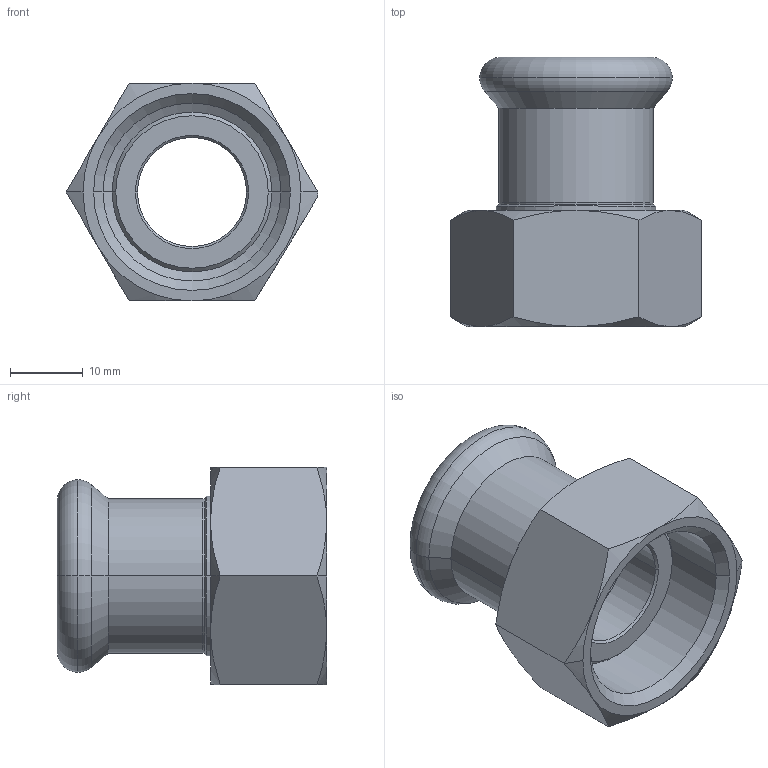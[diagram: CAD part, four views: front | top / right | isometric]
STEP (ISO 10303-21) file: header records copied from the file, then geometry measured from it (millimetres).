
FILE_DESCRIPTION(('CoCreate Modeling STEP Export'),'2;1');
FILE_NAME('C1446 18xG3-4.stp','2014-11-12T16:53:47',(''),(''),'CoCreate Modeling STEP processor for AP214 (Solid Model)','CoCreate Modeling 17.00A 17-Jun-2010 (C) Parametric Technology GmbH','');
FILE_SCHEMA(('AUTOMOTIVE_DESIGN { 1 0 10303 214 1 1 1 1 }'));
Length unit declared in the file: millimetre
Products named in the file (2): C1446_18xG3-4
Assembly tree (1 placements, depth 2):
  C1446_18xG3-4
    C1446_18xG3-4
Bounding box: 34.64 x 37.1 x 30 mm (x, y, z)
Volume: 9435 mm3; surface area: 7931.3 mm2
Topology: 1 solids, 1 shells, 75 faces, 156 edges, 89 vertices
Faces by surface type: cone 30, cylinder 21, plane 14, torus 10
Entity records: 2500 total; most frequent: CARTESIAN_POINT 1146, ORIENTED_EDGE 312, DIRECTION 211, EDGE_CURVE 156, VERTEX_POINT 89, EDGE_LOOP 83, AXIS2_PLACEMENT_3D 82, FACE_OUTER_BOUND 75
